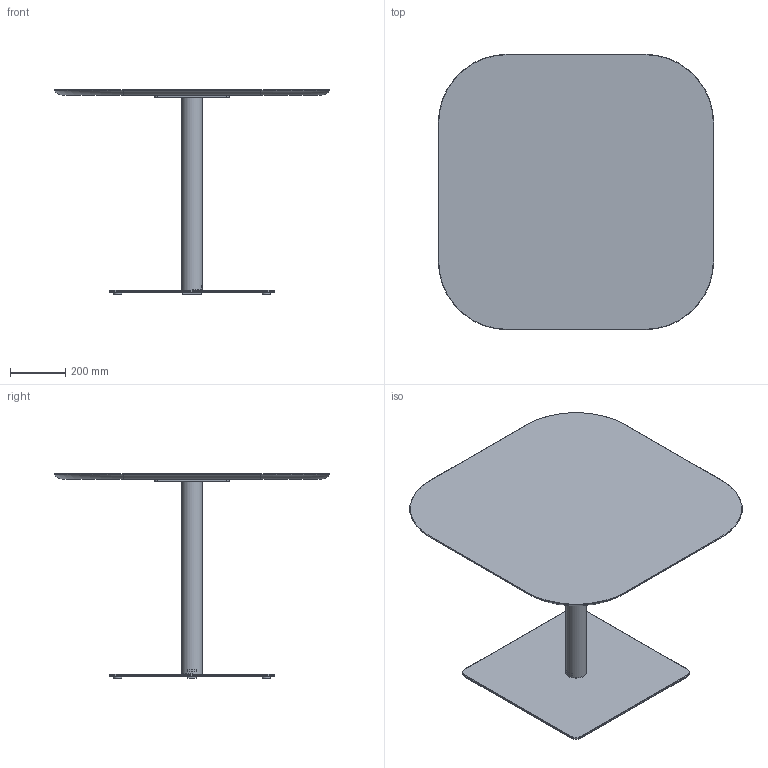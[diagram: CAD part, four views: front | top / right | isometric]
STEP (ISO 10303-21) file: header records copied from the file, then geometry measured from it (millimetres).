
FILE_DESCRIPTION( ('This file contains a STEP AP42 implementation' ,'as created by ZW3D STEP Interface translator.') ,'2;1' );
FILE_NAME( 'Henri - B_Carré - F2 - M3 - 1000 x 1000 x 750.stp' ,'24 912.165544', (''), ('ZWCAD Software Co.'), 'Version 1.0', 'ZW3D to STEP translator', '' );
FILE_SCHEMA(('AUTOMOTIVE_DESIGN { 1 0 10303 214 1 1 1 1 }'));
Length unit declared in the file: millimetre
Products named in the file (14): 0; PIED BISTROT PARAMETRIQUE_; COLONNE ACIER Ø76 V.02_; TUB-D076-02_; PLA-R76B-01_; CROIX ACIER 370 V.02_; CRX-X370-02_; SOCLE ACIER L 600x600 V.02_; SCL-R600-02_; PLA-R30A-01_; PLA-R30A-01; WUERTH 0276063020 Euro-screw 6.3x2 Verzinkt_; PLATEAU BISTROT PARAMETRIQUE_; insert_m6_13_
Assembly tree (22 placements, depth 3):
  0
  PIED BISTROT PARAMETRIQUE_
    COLONNE ACIER Ø76 V.02_
      TUB-D076-02_
      PLA-R76B-01_  x2
    CROIX ACIER 370 V.02_
      CRX-X370-02_
    SOCLE ACIER L 600x600 V.02_
      SCL-R600-02_
      PLA-R30A-01_
      PLA-R30A-01  x3
    WUERTH 0276063020 Euro-screw 6.3x2 Verzinkt_
    PLATEAU BISTROT PARAMETRIQUE_
      insert_m6_13_  x8
Bounding box: 1000 x 1000 x 744 mm (x, y, z)
Volume: 22188980.2 mm3; surface area: 3177019.3 mm2
Topology: 19 solids, 19 shells, 537 faces, 1310 edges, 822 vertices
Faces by surface type: plane 258, bspline 121, cylinder 102, cone 51, torus 5
Full cylindrical faces by diameter (mm): 4.88 x1, 6 x8, 6.3 x1, 8 x45, 12 x2, 14 x2, 30 x4, 72 x1, 76 x1
Entity records: 12318 total; most frequent: CARTESIAN_POINT 3396, ORIENTED_EDGE 1624, DIRECTION 1527, EDGE_CURVE 812, VERTEX_POINT 518, AXIS2_PLACEMENT_3D 511, VECTOR 505, LINE 505
